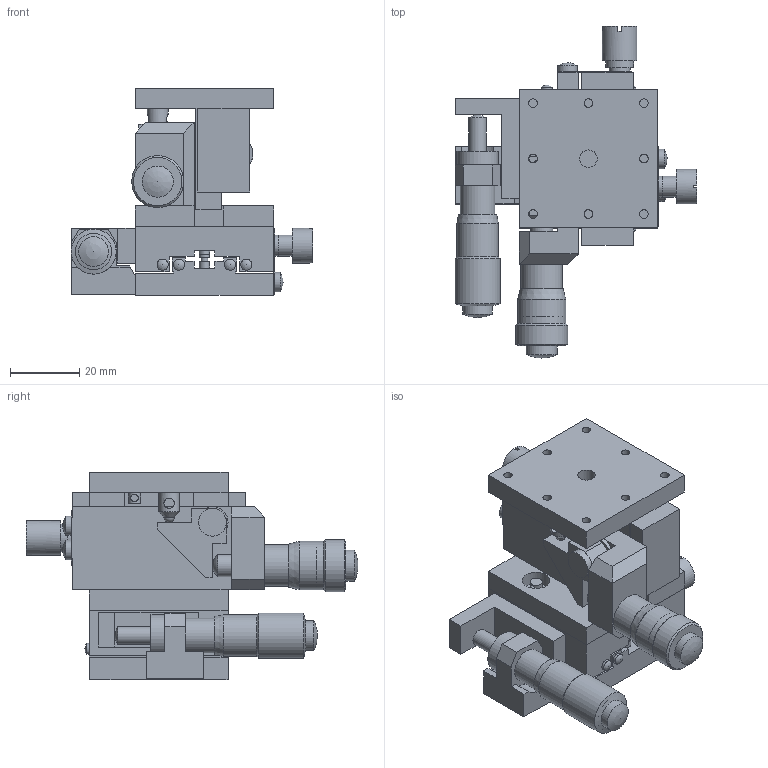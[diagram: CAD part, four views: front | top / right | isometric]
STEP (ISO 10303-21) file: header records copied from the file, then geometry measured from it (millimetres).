
FILE_DESCRIPTION( ( 'STEP AP203' ), '1' );
FILE_NAME( 'C:/3D-Trans/3D_B63-40C+090216.step', '2009-02-25T06:49:25', ( ' ' ), ( ' ' ), 'XStep 1.0', ' ', ' ' );
FILE_SCHEMA( ( 'CONFIG_CONTROL_DESIGN' ) );
Length unit declared in the file: millimetre
Products named in the file (7): 1; 2; 3; 4; 5; 6; 7
Bounding box: 69.8 x 95.8 x 60 mm (x, y, z)
Volume: 90246.1 mm3; surface area: 41179.6 mm2
Topology: 7 solids, 7 shells, 335 faces, 849 edges, 557 vertices
Faces by surface type: plane 202, cylinder 100, sphere 16, cone 16, bspline 1
Full cylindrical faces by diameter (mm): 2 x2, 2.2 x2, 2.5 x22, 3 x6, 3.2 x8, 3.5 x6, 4 x1, 5 x6, 5.6 x4, 6 x8, 6.35 x1, 6.5 x1, 8 x3, 8.6 x1, 9 x2, 10 x4, 10.5 x1, 12 x3, 13 x1, 13.6 x1, 14 x1, 15 x1
Entity records: 9630 total; most frequent: CARTESIAN_POINT 1826, DIRECTION 1549, ORIENTED_EDGE 1346, EDGE_CURVE 673, AXIS2_PLACEMENT_3D 542, EDGE_LOOP 526, VERTEX_POINT 507, LINE 465
